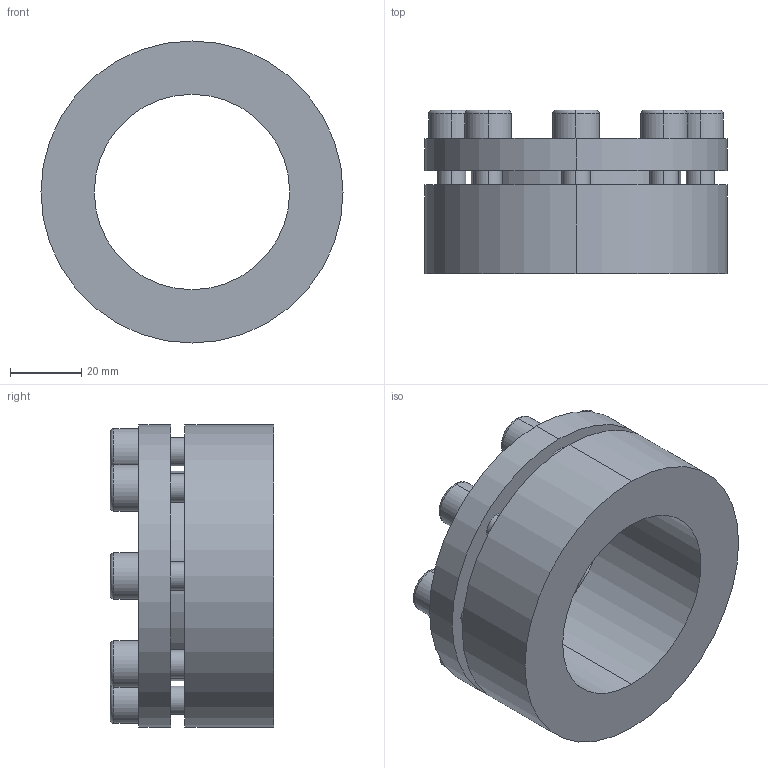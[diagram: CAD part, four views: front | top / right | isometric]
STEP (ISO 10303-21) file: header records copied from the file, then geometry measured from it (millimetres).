
FILE_DESCRIPTION (( 'STEP AP203' ), '1' );
FILE_NAME ('PL-H1 55-85.STEP', '2021-10-23T00:54:47', ( '' ), ( '' ), 'SwSTEP 2.0', 'SolidWorks 2018', '' );
FILE_SCHEMA (( 'CONFIG_CONTROL_DESIGN' ));
Length unit declared in the file: millimetre
Products named in the file (1): PL-H1 55-85
Bounding box: 85 x 46 x 85 mm (x, y, z)
Volume: 122625.4 mm3; surface area: 32000.1 mm2
Topology: 1 solids, 1 shells, 124 faces, 296 edges, 192 vertices
Faces by surface type: plane 68, cylinder 40, torus 16
Entity records: 3717 total; most frequent: DIRECTION 658, CARTESIAN_POINT 613, ORIENTED_EDGE 592, EDGE_CURVE 296, AXIS2_PLACEMENT_3D 237, VERTEX_POINT 192, LINE 184, VECTOR 184
